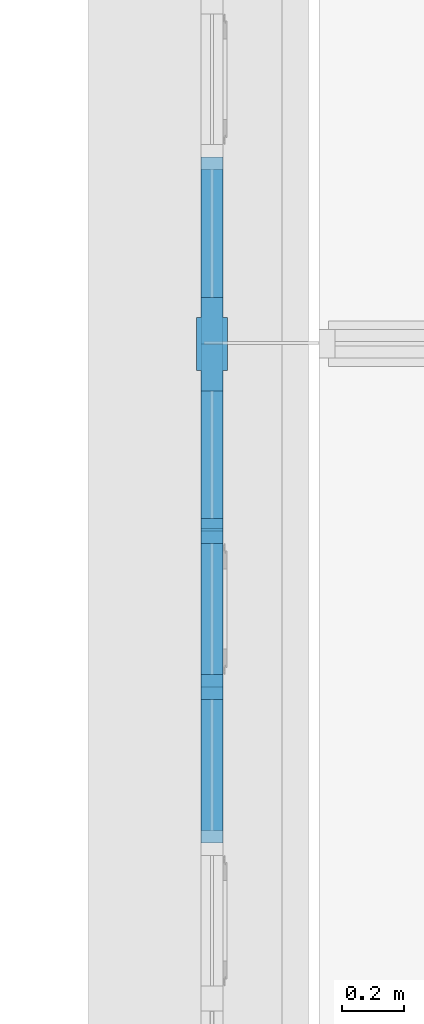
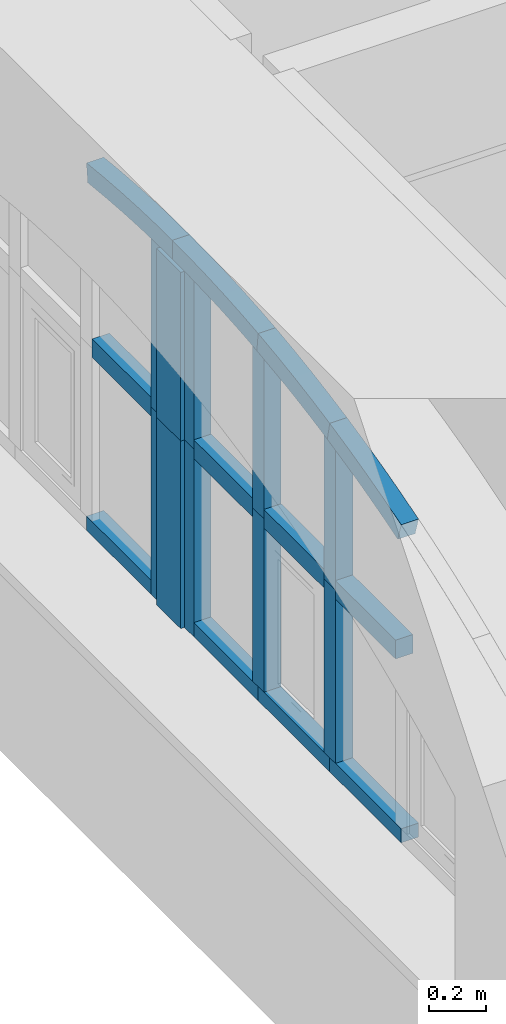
# One storey, part 10 of 32: 18 members, 1 element without a shape of its own.
"""IFC2X3 building model written with IfcOpenShell, lengths in millimetres."""

from ifc_helpers import new_model, entity, si_unit, converted_unit, derived_unit, direction, frame, frame_2d, origin, place, context, subcontext, project, spatial, polyline, circle_curve, parameter, trimmed, segment, composite_curve, rectangle, outline, extrude, faceted_brep, source, transform, mapped, material, type_object, type_shapes, element, aggregate, save


model = new_model("IFC2X3")

# Units and contexts
model_context = context("Model", 3, precision=0.01, world=origin(), true_north=direction((6.123031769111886e-17, 1.0)))
body_context = subcontext(model_context, "Body", "Model", "MODEL_VIEW")
ifc_project = project(units=[si_unit("LENGTHUNIT", "METRE", prefix="MILLI"), si_unit("AREAUNIT", "SQUARE_METRE"), si_unit("VOLUMEUNIT", "CUBIC_METRE"), converted_unit("PLANEANGLEUNIT", "DEGREE", entity("IfcPlaneAngleMeasure", 0.017453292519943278), si_unit("PLANEANGLEUNIT", "RADIAN"), dimensions=[0, 0, 0, 0, 0, 0, 0]), si_unit("MASSUNIT", "GRAM", prefix="KILO"), derived_unit("MASSDENSITYUNIT", [(si_unit("MASSUNIT", "GRAM", prefix="KILO"), 1), (si_unit("LENGTHUNIT", "METRE"), -3)]), derived_unit("IONCONCENTRATIONUNIT", [(si_unit("MASSUNIT", "GRAM", prefix="KILO"), 1), (si_unit("LENGTHUNIT", "METRE"), -3)]), derived_unit("MOMENTOFINERTIAUNIT", [(si_unit("LENGTHUNIT", "METRE"), 4)]), si_unit("TIMEUNIT", "SECOND"), si_unit("FREQUENCYUNIT", "HERTZ"), si_unit("THERMODYNAMICTEMPERATUREUNIT", "DEGREE_CELSIUS"), derived_unit("THERMALTRANSMITTANCEUNIT", [(si_unit("MASSUNIT", "GRAM", prefix="KILO"), 1), (si_unit("THERMODYNAMICTEMPERATUREUNIT", "KELVIN"), -1), (si_unit("TIMEUNIT", "SECOND"), -3)]), derived_unit("THERMALCONDUCTANCEUNIT", [(si_unit("MASSUNIT", "GRAM", prefix="KILO"), 1), (si_unit("THERMODYNAMICTEMPERATUREUNIT", "KELVIN"), -1), (si_unit("TIMEUNIT", "SECOND"), -3), (si_unit("LENGTHUNIT", "METRE"), 1)]), derived_unit("VOLUMETRICFLOWRATEUNIT", [(si_unit("LENGTHUNIT", "METRE", prefix="DECI"), 3), (si_unit("TIMEUNIT", "SECOND"), -1)]), derived_unit("MASSFLOWRATEUNIT", [(si_unit("MASSUNIT", "GRAM", prefix="KILO"), 1), (si_unit("TIMEUNIT", "SECOND"), -1)]), derived_unit("ROTATIONALFREQUENCYUNIT", [(si_unit("TIMEUNIT", "SECOND"), -1)]), si_unit("ELECTRICCURRENTUNIT", "AMPERE"), si_unit("ELECTRICVOLTAGEUNIT", "VOLT"), si_unit("POWERUNIT", "WATT"), si_unit("FORCEUNIT", "NEWTON", prefix="KILO"), si_unit("ILLUMINANCEUNIT", "LUX"), si_unit("LUMINOUSFLUXUNIT", "LUMEN"), si_unit("LUMINOUSINTENSITYUNIT", "CANDELA"), si_unit("ENERGYUNIT", "JOULE"), derived_unit("USERDEFINED", [(si_unit("MASSUNIT", "GRAM", prefix="KILO"), -1), (si_unit("LENGTHUNIT", "METRE"), -2), (si_unit("TIMEUNIT", "SECOND"), 3), (si_unit("LUMINOUSFLUXUNIT", "LUMEN"), 1)]), derived_unit("USERDEFINED", [(si_unit("MASSUNIT", "GRAM", prefix="KILO"), 1), (si_unit("TIMEUNIT", "SECOND"), -3), (si_unit("LENGTHUNIT", "METRE"), 3), (si_unit("ELECTRICCURRENTUNIT", "AMPERE"), -2)]), derived_unit("SOUNDPOWERUNIT", [(si_unit("MASSUNIT", "GRAM", prefix="KILO"), 1), (si_unit("TIMEUNIT", "SECOND"), -3), (si_unit("LENGTHUNIT", "METRE"), 2)]), derived_unit("SOUNDPRESSUREUNIT", [(si_unit("MASSUNIT", "GRAM", prefix="KILO"), 1), (si_unit("LENGTHUNIT", "METRE"), -1), (si_unit("TIMEUNIT", "SECOND"), -2)]), derived_unit("LINEARVELOCITYUNIT", [(si_unit("LENGTHUNIT", "METRE"), 1), (si_unit("TIMEUNIT", "SECOND"), -1)]), si_unit("PRESSUREUNIT", "PASCAL"), derived_unit("USERDEFINED", [(si_unit("MASSUNIT", "GRAM", prefix="KILO"), 1), (si_unit("LENGTHUNIT", "METRE"), -2), (si_unit("TIMEUNIT", "SECOND"), -2)]), derived_unit("LINEARFORCEUNIT", [(si_unit("MASSUNIT", "GRAM", prefix="KILO"), 1), (si_unit("TIMEUNIT", "SECOND"), -2)]), derived_unit("PLANARFORCEUNIT", [(si_unit("MASSUNIT", "GRAM", prefix="KILO"), 1), (si_unit("LENGTHUNIT", "METRE"), -1), (si_unit("TIMEUNIT", "SECOND"), -2)]), derived_unit("SPECIFICHEATCAPACITYUNIT", [(si_unit("THERMODYNAMICTEMPERATUREUNIT", "KELVIN"), -1), (si_unit("LENGTHUNIT", "METRE"), 2), (si_unit("TIMEUNIT", "SECOND"), -2)]), derived_unit("HEATFLUXDENSITYUNIT", [(si_unit("MASSUNIT", "GRAM", prefix="KILO"), 1), (si_unit("TIMEUNIT", "SECOND"), -3)]), derived_unit("HEATINGVALUEUNIT", [(si_unit("LENGTHUNIT", "METRE"), 2), (si_unit("TIMEUNIT", "SECOND"), -2)]), derived_unit("VAPORPERMEABILITYUNIT", [(si_unit("LENGTHUNIT", "METRE"), -1), (si_unit("TIMEUNIT", "SECOND"), 1)]), derived_unit("DYNAMICVISCOSITYUNIT", [(si_unit("MASSUNIT", "GRAM", prefix="KILO"), 1), (si_unit("TIMEUNIT", "SECOND"), -1), (si_unit("LENGTHUNIT", "METRE"), -1)]), derived_unit("THERMALEXPANSIONCOEFFICIENTUNIT", [(si_unit("THERMODYNAMICTEMPERATUREUNIT", "KELVIN"), -1)]), derived_unit("MODULUSOFELASTICITYUNIT", [(si_unit("MASSUNIT", "GRAM", prefix="KILO"), 1), (si_unit("LENGTHUNIT", "METRE"), -1), (si_unit("TIMEUNIT", "SECOND"), -2)]), derived_unit("ISOTHERMALMOISTURECAPACITYUNIT", [(si_unit("MASSUNIT", "GRAM", prefix="KILO"), -1), (si_unit("LENGTHUNIT", "METRE"), 3)]), derived_unit("MOISTUREDIFFUSIVITYUNIT", [(si_unit("TIMEUNIT", "SECOND"), -1), (si_unit("LENGTHUNIT", "METRE"), 2)]), derived_unit("MASSPERLENGTHUNIT", [(si_unit("MASSUNIT", "GRAM", prefix="KILO"), 1), (si_unit("LENGTHUNIT", "METRE"), -1)]), derived_unit("THERMALRESISTANCEUNIT", [(si_unit("MASSUNIT", "GRAM", prefix="KILO"), -1), (si_unit("TIMEUNIT", "SECOND"), 3), (si_unit("THERMODYNAMICTEMPERATUREUNIT", "KELVIN"), 1)]), derived_unit("ACCELERATIONUNIT", [(si_unit("LENGTHUNIT", "METRE"), 1), (si_unit("TIMEUNIT", "SECOND"), -2)]), derived_unit("ANGULARVELOCITYUNIT", [(si_unit("TIMEUNIT", "SECOND"), -1), (si_unit("PLANEANGLEUNIT", "RADIAN"), 1)]), derived_unit("LINEARSTIFFNESSUNIT", [(si_unit("MASSUNIT", "GRAM", prefix="KILO"), 1), (si_unit("TIMEUNIT", "SECOND"), -2)]), derived_unit("WARPINGCONSTANTUNIT", [(si_unit("LENGTHUNIT", "METRE"), 6)]), derived_unit("LINEARMOMENTUNIT", [(si_unit("MASSUNIT", "GRAM", prefix="KILO"), 1), (si_unit("LENGTHUNIT", "METRE"), 1), (si_unit("TIMEUNIT", "SECOND"), -2)]), derived_unit("TORQUEUNIT", [(si_unit("MASSUNIT", "GRAM", prefix="KILO"), 1), (si_unit("LENGTHUNIT", "METRE"), 2), (si_unit("TIMEUNIT", "SECOND"), -2)])], contexts=[model_context])

# Site, building, storey
site_placement = place(None, origin())
site = spatial("IfcSite", under=ifc_project, at=site_placement, Name="Default", CompositionType="ELEMENT")
building_placement = place(site_placement, origin())
building = spatial("IfcBuilding", under=site, at=building_placement, Name="Eesti Rahvusraamatukogu hoone renoveerimise projekteerimistööd", CompositionType="ELEMENT")
storey_placement = place(building_placement, frame((0.0, 0.0, 4950.000000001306)))
storey = spatial("IfcBuildingStorey", under=building, at=storey_placement, Name="2. korrus", CompositionType="ELEMENT", Elevation=4950.000000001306)

# Curtain wall, members
curtain_wall_type = type_object("IfcCurtainWallType", Name="Curtain Wall:Ak-04", PredefinedType="NOTDEFINED")
curtain_wall_placement = place(storey_placement, frame((0.0, 0.0, -4950.000000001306)))
curtain_wall = element("IfcCurtainWall", 1, at=curtain_wall_placement, inside=storey, type_object=curtain_wall_type, Name="Curtain Wall:Ak-04", ObjectType="Curtain Wall:Ak-04")
ifc_material = material(Name="LUMION_dark steel window frames")
member_type_1 = type_object("IfcMemberType", Name="Rectangular Mullion:NEW 80x70mm", PredefinedType="MULLION", material=ifc_material)
shared_shape_1 = source(origin(), body_context, "Body", "SweptSolid", [
    extrude(rectangle(XDim=80.0, YDim=70.0, at=frame_2d((0.0, -3.552713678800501e-15), x_axis=(1.0, 0.0))), frame((0.0, 0.0, -420.0), z_axis=(0.0, 0.0, 1.0), x_axis=(-1.0, 0.0, 0.0)), (0.0, 0.0, 1.0), 419.999999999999),
])
type_shapes(member_type_1, [shared_shape_1])
member_1_placement = place(curtain_wall_placement, frame((-36383.999999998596, 20288.695591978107, 6550.000000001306), z_axis=(0.0, -1.0, 0.0), x_axis=(0.0, 0.0, 1.0)))
member_1 = element("IfcMember", 2, at=member_1_placement, type_object=member_type_1, material=ifc_material, Name="Rectangular Mullion:NEW 80x70mm", ObjectType="Rectangular Mullion:NEW 80x70mm", context=body_context, shape_type="MappedRepresentation", body=[
    mapped(shared_shape_1, transform((0.0, 0.0, 0.0), scale=1.0)),
])
member_2_placement = place(curtain_wall_placement, frame((-36383.9999999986, 19788.695591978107, 6550.000000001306), z_axis=(0.0, -1.0, 0.0), x_axis=(0.0, 0.0, 1.0)))
member_2 = element("IfcMember", 3, at=member_2_placement, type_object=member_type_1, material=ifc_material, Name="Rectangular Mullion:NEW 80x70mm", ObjectType="Rectangular Mullion:NEW 80x70mm", context=body_context, shape_type="MappedRepresentation", body=[
    mapped(shared_shape_1, transform((0.0, 0.0, 0.0), scale=1.0)),
])
member_type_2 = type_object("IfcMemberType", Name="Rectangular Mullion:NEW 80x70mm", PredefinedType="MULLION", material=ifc_material)
shared_shape_2 = source(origin(), body_context, "Body", "SweptSolid", [
    extrude(rectangle(XDim=80.0, YDim=70.0, at=frame_2d((0.0, -3.552713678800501e-15), x_axis=(1.0, 0.0))), frame((0.0, 0.0, -410.0), z_axis=(0.0, 0.0, 1.0), x_axis=(-1.0, 0.0, 0.0)), (0.0, 0.0, 1.0), 409.9999999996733),
])
type_shapes(member_type_2, [shared_shape_2])
member_3_placement = place(curtain_wall_placement, frame((-36383.999999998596, 21498.695591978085, 6550.000000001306), z_axis=(0.0, -1.0, 0.0), x_axis=(0.0, 0.0, 1.0)))
member_3 = element("IfcMember", 4, at=member_3_placement, type_object=member_type_2, material=ifc_material, Name="Rectangular Mullion:NEW 80x70mm", ObjectType="Rectangular Mullion:NEW 80x70mm", context=body_context, shape_type="MappedRepresentation", body=[
    mapped(shared_shape_2, transform((0.0, 0.0, 0.0), scale=1.0)),
])
member_4_placement = place(curtain_wall_placement, frame((-36383.999999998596, 20788.695591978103, 6550.000000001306), z_axis=(0.0, -1.0, 0.0), x_axis=(0.0, 0.0, 1.0)))
member_4 = element("IfcMember", 5, at=member_4_placement, type_object=member_type_2, material=ifc_material, Name="Rectangular Mullion:NEW 80x70mm", ObjectType="Rectangular Mullion:NEW 80x70mm", context=body_context, shape_type="MappedRepresentation", body=[
    mapped(shared_shape_2, transform((0.0, 0.0, 0.0), scale=1.0)),
])
member_type_3 = type_object("IfcMemberType", Name="Rectangular Mullion:NEW 60x70mm", PredefinedType="MULLION", material=ifc_material)
shared_shape_3 = source(origin(), body_context, "Body", "SweptSolid", [
    extrude(rectangle(XDim=60.0, YDim=70.0, at=frame_2d((0.0, 3.552713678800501e-15), x_axis=(1.0, 0.0))), frame((-30.0, 0.0, -500.0), z_axis=(0.0, 0.0, 1.0), x_axis=(-1.0, 0.0, 0.0)), (0.0, 0.0, 1.0), 499.999999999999),
])
type_shapes(member_type_3, [shared_shape_3])
member_5_placement = place(curtain_wall_placement, frame((-36383.999999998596, 20748.695591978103, 5750.000000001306), z_axis=(0.0, 1.0, 0.0), x_axis=(0.0, 0.0, -1.0)))
member_5 = element("IfcMember", 6, at=member_5_placement, type_object=member_type_3, material=ifc_material, Name="Rectangular Mullion:NEW 60x70mm", ObjectType="Rectangular Mullion:NEW 60x70mm", context=body_context, shape_type="MappedRepresentation", body=[
    mapped(shared_shape_3, transform((0.0, 0.0, 0.0), scale=1.0)),
])
member_6_placement = place(curtain_wall_placement, frame((-36383.999999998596, 20248.695591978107, 5750.000000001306), z_axis=(0.0, 1.0, 0.0), x_axis=(0.0, 0.0, -1.0)))
member_6 = element("IfcMember", 7, at=member_6_placement, type_object=member_type_3, material=ifc_material, Name="Rectangular Mullion:NEW 60x70mm", ObjectType="Rectangular Mullion:NEW 60x70mm", context=body_context, shape_type="MappedRepresentation", body=[
    mapped(shared_shape_3, transform((0.0, 0.0, 0.0), scale=1.0)),
])
member_type_4 = type_object("IfcMemberType", Name="Rectangular Mullion:NEW 60x70mm", PredefinedType="MULLION", material=ifc_material)
shared_shape_4 = source(origin(), body_context, "Body", "SweptSolid", [
    extrude(rectangle(XDim=60.0, YDim=70.0, at=frame_2d((0.0, 3.552713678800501e-15), x_axis=(1.0, 0.0))), frame((-30.0, 0.0, -450.0), z_axis=(0.0, 0.0, 1.0), x_axis=(-1.0, 0.0, 0.0)), (0.0, 0.0, 1.0), 449.99999999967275),
])
type_shapes(member_type_4, [shared_shape_4])
member_7_placement = place(curtain_wall_placement, frame((-36383.999999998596, 21948.69559197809, 5750.000000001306), z_axis=(0.0, 1.0, 0.0), x_axis=(0.0, 0.0, -1.0)))
member_7 = element("IfcMember", 8, at=member_7_placement, type_object=member_type_4, material=ifc_material, Name="Rectangular Mullion:NEW 60x70mm", ObjectType="Rectangular Mullion:NEW 60x70mm", context=body_context, shape_type="MappedRepresentation", body=[
    mapped(shared_shape_4, transform((0.0, 0.0, 0.0), scale=1.0)),
])
member_type_5 = type_object("IfcMemberType", Name="Rectangular Mullion:NEW 60x70mm", PredefinedType="MULLION", material=ifc_material)
shared_shape_5 = source(origin(), body_context, "Body", "SweptSolid", [
    extrude(rectangle(XDim=60.0, YDim=70.0, at=frame_2d((0.0, 3.552713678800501e-15), x_axis=(1.0, 0.0))), frame((-30.0, 0.0, -450.0), z_axis=(0.0, 0.0, 1.0), x_axis=(-1.0, 0.0, 0.0)), (0.0, 0.0, 1.0), 449.9999999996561),
])
type_shapes(member_type_5, [shared_shape_5])
member_8_placement = place(curtain_wall_placement, frame((-36383.999999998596, 21198.695591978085, 5750.000000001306), z_axis=(0.0, 1.0, 0.0), x_axis=(0.0, 0.0, -1.0)))
member_8 = element("IfcMember", 9, at=member_8_placement, type_object=member_type_5, material=ifc_material, Name="Rectangular Mullion:NEW 60x70mm", ObjectType="Rectangular Mullion:NEW 60x70mm", context=body_context, shape_type="MappedRepresentation", body=[
    mapped(shared_shape_5, transform((0.0, 0.0, 0.0), scale=1.0)),
])
member_type_6 = type_object("IfcMemberType", Name="Rectangular Mullion:NEW 80x70mm", PredefinedType="MULLION", material=ifc_material)
shared_shape_6 = source(origin(), body_context, "Body", "SweptSolid", [
    extrude(rectangle(XDim=80.0, YDim=70.0, at=frame_2d((0.0, -3.552713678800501e-15), x_axis=(1.0, 0.0))), frame((0.0, 0.0, -740.0), z_axis=(0.0, 0.0, 1.0), x_axis=(-1.0, 0.0, 0.0)), (0.0, 0.0, 1.0), 740.0),
])
type_shapes(member_type_6, [shared_shape_6])
member_9_placement = place(curtain_wall_placement, frame((-36383.999999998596, 20248.695591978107, 5810.000000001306), z_axis=(0.0, 0.0, -1.0), x_axis=(0.0, -1.0, 0.0)))
member_9 = element("IfcMember", 10, at=member_9_placement, type_object=member_type_6, material=ifc_material, Name="Rectangular Mullion:NEW 80x70mm", ObjectType="Rectangular Mullion:NEW 80x70mm", context=body_context, shape_type="MappedRepresentation", body=[
    mapped(shared_shape_6, transform((0.0, 0.0, 0.0), scale=1.0)),
])
member_10_placement = place(curtain_wall_placement, frame((-36383.999999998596, 20748.695591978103, 5810.000000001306), z_axis=(0.0, 0.0, -1.0), x_axis=(0.0, -1.0, 0.0)))
member_10 = element("IfcMember", 11, at=member_10_placement, type_object=member_type_6, material=ifc_material, Name="Rectangular Mullion:NEW 80x70mm", ObjectType="Rectangular Mullion:NEW 80x70mm", context=body_context, shape_type="MappedRepresentation", body=[
    mapped(shared_shape_6, transform((0.0, 0.0, 0.0), scale=1.0)),
])
member_type_7 = type_object("IfcMemberType", Name="Rectangular Mullion:NEW 80x70mm", PredefinedType="MULLION", material=ifc_material)
shared_shape_7 = source(origin(), body_context, "Body", "SweptSolid", [
    extrude(outline(composite_curve([segment(polyline([(-363.37678895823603, -43.27151160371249), (232.56220317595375, -43.27151160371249)]), True, "CONTINUOUS"), segment(trimmed(circle_curve(frame_2d((-4943.152908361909, 1096.728488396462), x_axis=(0.9547498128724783, -0.29741014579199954)), 5299.776119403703), [parameter(4.880521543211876)], [parameter(5.5036722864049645)], True, "PARAMETER"), True, "CONTINUOUS"), segment(trimmed(circle_curve(frame_2d((-4943.152908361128, 1096.72848839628), x_axis=(0.9788729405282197, -0.20446947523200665)), 5299.7761194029), [parameter(0.0)], [parameter(0.2609913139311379)], True, "PARAMETER"), True, "CONTINUOUS"), segment(polyline([(249.536848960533, 36.728488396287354), (-363.37678895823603, 36.72848839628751)]), True, "CONTINUOUS"), segment(polyline([(-363.37678895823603, 36.72848839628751), (-363.37678895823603, -43.27151160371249)]), True, "CONTINUOUS")], self_intersect=False)), frame((-3.271511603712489, -35.0, -363.37678895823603), z_axis=(0.0, 1.0, 0.0), x_axis=(0.0, 0.0, -1.0)), (0.0, 0.0, 1.0), 70.00000000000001),
])
type_shapes(member_type_7, [shared_shape_7])
member_11_placement = place(curtain_wall_placement, frame((-36383.999999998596, 20248.695591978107, 6550.000000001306), z_axis=(0.0, 0.0, -1.0), x_axis=(0.0, -1.0, 0.0)))
member_11 = element("IfcMember", 12, at=member_11_placement, type_object=member_type_7, material=ifc_material, Name="Rectangular Mullion:NEW 80x70mm", ObjectType="Rectangular Mullion:NEW 80x70mm", context=body_context, shape_type="MappedRepresentation", body=[
    mapped(shared_shape_7, transform((0.0, 0.0, 0.0), scale=1.0)),
])
member_type_8 = type_object("IfcMemberType", Name="Rectangular Mullion:NEW 80x70mm", PredefinedType="MULLION", material=ifc_material)
shared_shape_8 = source(origin(), body_context, "Body", "SweptSolid", [
    extrude(outline(composite_curve([segment(polyline([(-411.69630029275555, -41.78446087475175), (269.51863863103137, -41.78446087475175)]), True, "CONTINUOUS"), segment(trimmed(circle_curve(frame_2d((-4991.472419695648, 598.2155391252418), x_axis=(0.9788729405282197, -0.20446947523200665)), 5299.7761194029), [parameter(4.862488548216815)], [parameter(5.39499243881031)], True, "PARAMETER"), True, "CONTINUOUS"), segment(trimmed(circle_curve(frame_2d((-4991.472419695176, 598.2155391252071), x_axis=(0.9937612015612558, -0.11152880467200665)), 5299.776119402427), [parameter(0.0)], [parameter(0.3379797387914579)], True, "PARAMETER"), True, "CONTINUOUS"), segment(polyline([(278.63449722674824, 38.21553912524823), (-411.69630029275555, 38.21553912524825)]), True, "CONTINUOUS"), segment(polyline([(-411.69630029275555, 38.21553912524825), (-411.69630029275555, -41.78446087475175)]), True, "CONTINUOUS")], self_intersect=False)), frame((-1.7844608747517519, -35.0, -411.69630029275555), z_axis=(0.0, 1.0, 0.0), x_axis=(0.0, 0.0, -1.0)), (0.0, 0.0, 1.0), 69.99999999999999),
])
type_shapes(member_type_8, [shared_shape_8])
member_12_placement = place(curtain_wall_placement, frame((-36383.999999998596, 20748.695591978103, 6550.000000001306), z_axis=(0.0, 0.0, -1.0), x_axis=(0.0, -1.0, 0.0)))
member_12 = element("IfcMember", 13, at=member_12_placement, type_object=member_type_8, material=ifc_material, Name="Rectangular Mullion:NEW 80x70mm", ObjectType="Rectangular Mullion:NEW 80x70mm", context=body_context, shape_type="MappedRepresentation", body=[
    mapped(shared_shape_8, transform((0.0, 0.0, 0.0), scale=1.0)),
])
member_type_9 = type_object("IfcMemberType", Name="Rectangular Mullion:NEW 80x70mm", PredefinedType="MULLION", material=ifc_material)
shared_shape_9 = source(origin(), body_context, "Body", "SweptSolid", [
    extrude(outline(composite_curve([segment(polyline([(-51.82710825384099, -251.02635265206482), (28.172891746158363, -251.02635265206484)]), True, "CONTINUOUS"), segment(trimmed(circle_curve(frame_2d((5327.949011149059, -251.02635265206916), x_axis=(-0.995570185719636, 0.09402130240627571)), 5299.7761194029), [parameter(3.5622212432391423e-13)], [parameter(5.39499243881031)], True, "PARAMETER"), False, "CONTINUOUS"), segment(polyline([(51.64991568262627, 247.26550055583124), (-27.995699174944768, 254.78720474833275)]), True, "CONTINUOUS"), segment(trimmed(circle_curve(frame_2d((5327.949011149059, -251.02635265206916), x_axis=(-0.995570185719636, 0.09402130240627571)), 5379.7761194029), [parameter(3.5622212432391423e-13)], [parameter(5.39499243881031)], True, "PARAMETER"), True, "CONTINUOUS")], self_intersect=False)), frame((-51.827108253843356, -35.0, -251.02635265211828), z_axis=(0.0, 1.0, 0.0), x_axis=(-0.9955701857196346, 0.0, 0.09402130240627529)), (0.0, 0.0, 1.0), 70.00000000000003),
])
type_shapes(member_type_9, [shared_shape_9])
member_13_placement = place(curtain_wall_placement, frame((-36383.999999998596, 20248.69559197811, 7236.341149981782), z_axis=(0.0, -0.9788729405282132, -0.20446947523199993), x_axis=(0.0, -0.20446947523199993, 0.9788729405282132)))
member_13 = element("IfcMember", 14, at=member_13_placement, type_object=member_type_9, material=ifc_material, Name="Rectangular Mullion:NEW 80x70mm", ObjectType="Rectangular Mullion:NEW 80x70mm", context=body_context, shape_type="MappedRepresentation", body=[
    mapped(shared_shape_9, transform((0.0, 0.0, 0.0), scale=1.0)),
])
member_type_10 = type_object("IfcMemberType", Name="Rectangular Mullion:NEW 80x70mm", PredefinedType="MULLION", material=ifc_material)
shared_shape_10 = source(origin(), body_context, "Body", "SweptSolid", [
    extrude(outline(composite_curve([segment(polyline([(-52.30804182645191, -256.0677643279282), (27.691958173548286, -256.0677643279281)]), True, "CONTINUOUS"), segment(trimmed(circle_curve(frame_2d((5327.46807757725, -256.0677643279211), x_axis=(-0.9953900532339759, 0.09590955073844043)), 5299.776119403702), [parameter(3.5622212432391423e-13)], [parameter(5.5036722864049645)], True, "PARAMETER"), False, "CONTINUOUS"), segment(polyline([(52.12364395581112, 252.2313822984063), (-27.507560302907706, 259.9041463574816)]), True, "CONTINUOUS"), segment(trimmed(circle_curve(frame_2d((5327.46807757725, -256.0677643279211), x_axis=(-0.9953900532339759, 0.09590955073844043)), 5379.776119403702), [parameter(3.5622212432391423e-13)], [parameter(5.5036722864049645)], True, "PARAMETER"), True, "CONTINUOUS")], self_intersect=False)), frame((-52.30804182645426, -35.0, -256.06776432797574), z_axis=(0.0, 1.0, 0.0), x_axis=(-0.9953900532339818, 0.0, 0.09590955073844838)), (0.0, 0.0, 1.0), 69.99999999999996),
])
type_shapes(member_type_10, [shared_shape_10])
member_14_placement = place(curtain_wall_placement, frame((-36383.9999999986, 19748.695591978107, 7106.5641238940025), z_axis=(0.0, -0.9547498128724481, -0.2974101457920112), x_axis=(0.0, -0.2974101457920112, 0.9547498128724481)))
member_14 = element("IfcMember", 15, at=member_14_placement, type_object=member_type_10, material=ifc_material, Name="Rectangular Mullion:NEW 80x70mm", ObjectType="Rectangular Mullion:NEW 80x70mm", context=body_context, shape_type="MappedRepresentation", body=[
    mapped(shared_shape_10, transform((0.0, 0.0, 0.0), scale=1.0)),
])
member_type_11 = type_object("IfcMemberType", Name="Rectangular Mullion:NEW 300x100mm", PredefinedType="MULLION", material=ifc_material)
shared_shape_11 = source(origin(), body_context, "Body", "Brep", [
    faceted_brep([(-85.0, -50.0, 0.0), (85.0, -50.0, 0.0), (85.0, -35.0, 0.0), (150.0, -35.0, 0.0), (150.0, 35.0, 0.0), (85.0, 35.0, 0.0), (85.0, 50.0, 0.0), (-85.0, 50.0, 0.0), (-85.0, 35.0, 0.0), (-150.0, 35.0, 0.0), (-150.0, -35.0, 0.0), (-85.0, -35.0, 0.0), (-85.0, 35.0, -719.3183235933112), (-117.50221047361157, 35.0, -718.6972594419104), (-150.0, 35.0, -717.8768435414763), (150.0, 35.0, -717.8768435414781), (117.50221047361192, 35.0, -718.6972594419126), (85.0, 35.0, -719.3183235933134), (-150.0, -35.0, -717.8768435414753), (-117.50221047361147, -35.0, -718.6972594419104), (-85.0, -35.0, -719.3183235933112), (85.0, -35.0, -719.3183235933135), (117.50221047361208, -35.0, -718.6972594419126), (150.0, -35.0, -717.8768435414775), (-85.0, -50.0, -719.3183235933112), (-85.0, 50.0, -719.3183235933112), (-42.50068337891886, -50.0, -719.8295836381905), (0.0, -50.0, -720.0), (42.500683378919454, -50.0, -719.8295836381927), (85.0, -50.0, -719.3183235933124), (85.0, 50.0, -719.3183235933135), (42.500683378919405, 50.0, -719.8295836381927), (0.0, 50.0, -720.0), (-42.500683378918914, 50.0, -719.8295836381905)], [[[0, 1, 2, 3, 4, 5, 6, 7, 8, 9, 10, 11]], [[9, 8, 12, 13, 14]], [[5, 4, 15, 16, 17]], [[10, 9, 14, 18]], [[11, 10, 18, 19, 20]], [[3, 2, 21, 22, 23]], [[0, 11, 20, 24]], [[8, 7, 25, 12]], [[1, 0, 24, 26, 27, 28, 29]], [[2, 1, 29, 21]], [[6, 5, 17, 30]], [[4, 3, 23, 15]], [[7, 6, 30, 31, 32, 33, 25]], [[33, 32, 27, 26]], [[20, 12, 25, 33, 26, 24]], [[20, 19, 13, 12]], [[19, 18, 14, 13]], [[15, 23, 22, 16]], [[16, 22, 21, 17]], [[21, 29, 28, 31, 30, 17]], [[31, 28, 27, 32]]]),
])
type_shapes(member_type_11, [shared_shape_11])
member_15_placement = place(curtain_wall_placement, frame((-36383.999999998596, 21348.695591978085, 6550.000000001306), z_axis=(0.0, 0.0, -1.0), x_axis=(0.0, -1.0, 0.0)))
member_15 = element("IfcMember", 16, at=member_15_placement, type_object=member_type_11, material=ifc_material, Name="Rectangular Mullion:NEW 300x100mm", ObjectType="Rectangular Mullion:NEW 300x100mm", context=body_context, shape_type="MappedRepresentation", body=[
    mapped(shared_shape_11, transform((0.0, 0.0, 0.0), scale=1.0)),
])
member_type_12 = type_object("IfcMemberType", Name="Rectangular Mullion:NEW 300x100mm", PredefinedType="MULLION", material=ifc_material)
shared_shape_12 = source(origin(), body_context, "Body", "SweptSolid", [
    extrude(outline(polyline([(85.0, -35.0), (150.0, -35.0), (150.0, 35.0), (85.0, 35.0), (85.0, 50.0), (-85.0, 50.0), (-85.0, 35.0), (-150.0, 35.0), (-150.0, -35.0), (-85.0, -35.0), (-85.0, -50.0), (85.0, -50.0), (85.0, -35.0)])), frame((0.0, 0.0, -800.0), z_axis=(0.0, 0.0, 1.0), x_axis=(-1.0, 0.0, 0.0)), (0.0, 0.0, 1.0), 800.0),
])
type_shapes(member_type_12, [shared_shape_12])
member_16_placement = place(curtain_wall_placement, frame((-36383.999999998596, 21348.695591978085, 5750.000000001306), z_axis=(0.0, 0.0, -1.0), x_axis=(0.0, -1.0, 0.0)))
member_16 = element("IfcMember", 17, at=member_16_placement, type_object=member_type_12, material=ifc_material, Name="Rectangular Mullion:NEW 300x100mm", ObjectType="Rectangular Mullion:NEW 300x100mm", context=body_context, shape_type="MappedRepresentation", body=[
    mapped(shared_shape_12, transform((0.0, 0.0, 0.0), scale=1.0)),
])
member_type_13 = type_object("IfcMemberType", Name="Rectangular Mullion:NEW 80x70mm", PredefinedType="MULLION", material=ifc_material)
shared_shape_13 = source(origin(), body_context, "Body", "SweptSolid", [
    extrude(outline(composite_curve([segment(polyline([(-56.65689345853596, -297.7694239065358), (23.343106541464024, -297.7694239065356)]), True, "CONTINUOUS"), segment(trimmed(circle_curve(frame_2d((5323.119225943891, -297.7694239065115), x_axis=(-0.9937612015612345, 0.11152880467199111)), 5299.776119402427), [parameter(3.5622212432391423e-13)], [parameter(6.4034519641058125)], True, "PARAMETER"), False, "CONTINUOUS"), segment(polyline([(56.40734152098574, 293.3082717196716), (-23.093554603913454, 302.230576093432)]), True, "CONTINUOUS"), segment(trimmed(circle_curve(frame_2d((5323.119225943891, -297.7694239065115), x_axis=(-0.9937612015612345, 0.11152880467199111)), 5379.776119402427), [parameter(3.5622212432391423e-13)], [parameter(6.4034519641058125)], True, "PARAMETER"), True, "CONTINUOUS")], self_intersect=False)), frame((-56.6568934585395, -35.0, -297.7694239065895), z_axis=(0.0, 1.0, 0.0), x_axis=(-0.9937612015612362, 0.0, 0.11152880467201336)), (0.0, 0.0, 1.0), 70.00000000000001),
])
type_shapes(member_type_13, [shared_shape_13])
member_17_placement = place(curtain_wall_placement, frame((-36383.999999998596, 20748.695591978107, 7316.436661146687), z_axis=(0.0, -0.9937612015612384, -0.1115288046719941), x_axis=(0.0, -0.1115288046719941, 0.9937612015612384)))
member_17 = element("IfcMember", 18, at=member_17_placement, type_object=member_type_13, material=ifc_material, Name="Rectangular Mullion:NEW 80x70mm", ObjectType="Rectangular Mullion:NEW 80x70mm", context=body_context, shape_type="MappedRepresentation", body=[
    mapped(shared_shape_13, transform((0.0, 0.0, 0.0), scale=1.0)),
])
member_type_14 = type_object("IfcMemberType", Name="Rectangular Mullion:NEW 80x70mm", PredefinedType="MULLION", material=ifc_material)
shared_shape_14 = source(origin(), body_context, "Body", "SweptSolid", [
    extrude(outline(composite_curve([segment(polyline([(-56.65689345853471, -297.7694239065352), (23.343106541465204, -297.7694239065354)]), True, "CONTINUOUS"), segment(trimmed(circle_curve(frame_2d((5323.11922594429, -297.7694239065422), x_axis=(-0.9937612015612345, 0.11152880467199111)), 5299.776119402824), [parameter(3.5622212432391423e-13)], [parameter(6.403451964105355)], True, "PARAMETER"), False, "CONTINUOUS"), segment(polyline([(56.40734152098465, 293.3082717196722), (-23.093554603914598, 302.2305760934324)]), True, "CONTINUOUS"), segment(trimmed(circle_curve(frame_2d((5323.11922594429, -297.7694239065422), x_axis=(-0.9937612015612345, 0.11152880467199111)), 5379.776119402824), [parameter(3.5622212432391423e-13)], [parameter(6.403451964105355)], True, "PARAMETER"), True, "CONTINUOUS")], self_intersect=False)), frame((-56.65689345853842, -35.0, -297.7694239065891), z_axis=(0.0, 1.0, 0.0), x_axis=(-0.993761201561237, 0.0, 0.11152880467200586)), (0.0, 0.0, 1.0), 70.0),
])
type_shapes(member_type_14, [shared_shape_14])
member_18_placement = place(curtain_wall_placement, frame((-36383.999999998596, 21348.695591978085, 7350.000000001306), z_axis=(0.0, -1.0, 0.0), x_axis=(0.0, 0.0, 1.0)))
member_18 = element("IfcMember", 19, at=member_18_placement, type_object=member_type_14, material=ifc_material, Name="Rectangular Mullion:NEW 80x70mm", ObjectType="Rectangular Mullion:NEW 80x70mm", context=body_context, shape_type="MappedRepresentation", body=[
    mapped(shared_shape_14, transform((0.0, 0.0, 0.0), scale=1.0)),
])
aggregate(curtain_wall, [member_11, member_9, member_12, member_10, member_7, member_5, member_6, member_8, member_13, member_14, member_3, member_1, member_2, member_4, member_15, member_16, member_17, member_18])

save(model, "model.ifc")
